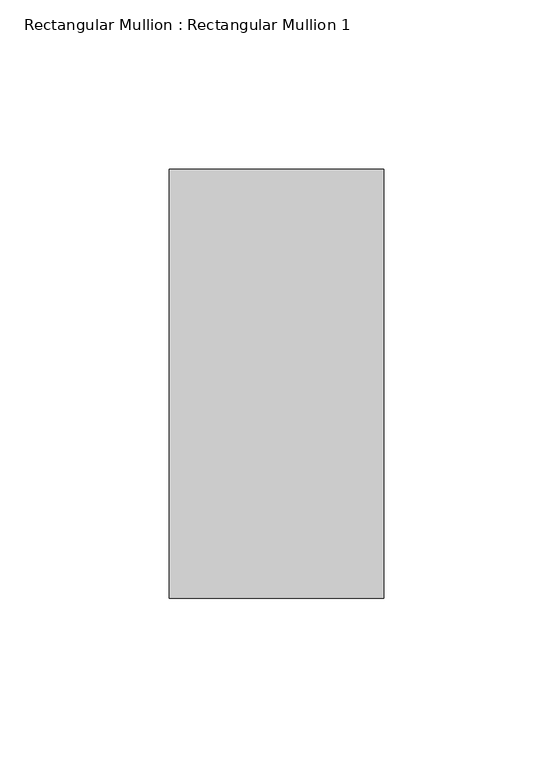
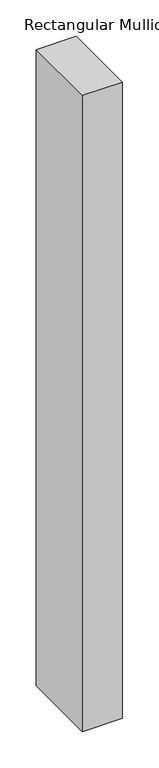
"""IFC4 building model written with IfcOpenShell, lengths in millimetres: member geometry, Rectangular Mullion : Rectangular Mullion 1."""

from ifc_helpers import new_model, si_unit, frame, origin, place, context, project, spatial, polyline, outline, extrude, source, transform, mapped, element, save


def rectangular_mullion_rectangular_mullion_1_1bcf3fab(model_context):
    return source(origin(), model_context, "Body", "SweptSolid", [
        extrude(outline(polyline([(0.0, 63.5), (0.0, -63.5), (-63.5, -63.5), (-63.5, 63.5), (0.0, 63.5)])), frame((0.0, 0.0, -1070.4285715), z_axis=(0.0, 0.0, 1.0), x_axis=(1.0, 0.0, 0.0)), (0.0, 0.0, 1.0), 1070.4285715),
    ])


if __name__ == "__main__":
    model = new_model("IFC4")
    model_context = context("Model", 3, world=origin())
    ifc_project = project(units=[si_unit("LENGTHUNIT", "METRE", prefix="MILLI")], contexts=[model_context])
    site = spatial("IfcSite", under=ifc_project)
    building = spatial("IfcBuilding", under=site)
    placement = place(None, origin())
    rectangular_mullion_rectangular_mullion_1_shape = rectangular_mullion_rectangular_mullion_1_1bcf3fab(model_context)
    element("IfcMember", 1, ObjectType="Rectangular Mullion : Rectangular Mullion 1", at=placement, inside=building, context=model_context, shape_type="MappedRepresentation", body=[
        mapped(rectangular_mullion_rectangular_mullion_1_shape, transform((0.0, 0.0, 0.0), x_axis=(1.0, 0.0, 0.0), y_axis=(0.0, 1.0, 0.0), z_axis=(0.0, 0.0, 1.0))),
    ])
    save(model, "model.ifc")
